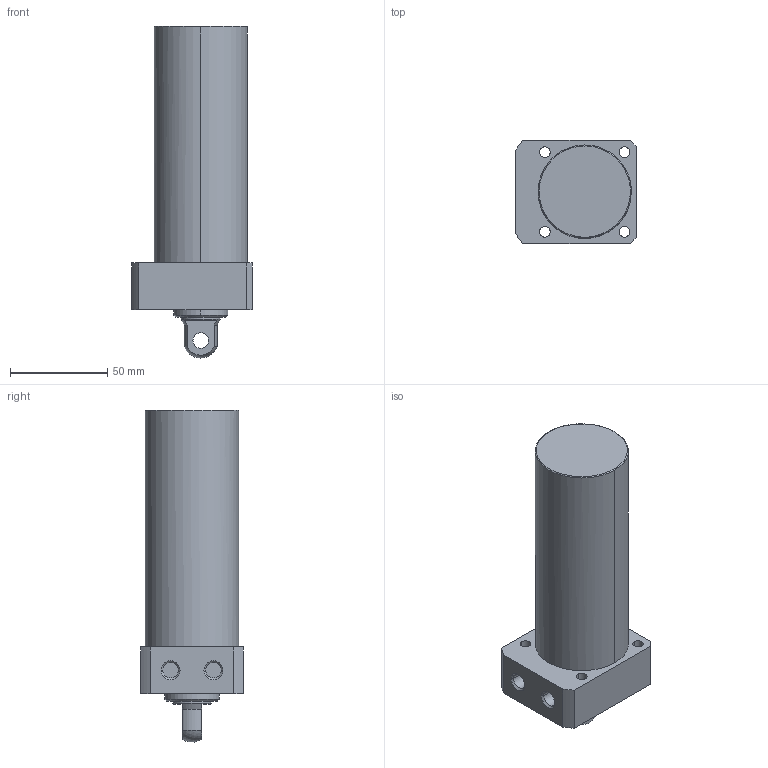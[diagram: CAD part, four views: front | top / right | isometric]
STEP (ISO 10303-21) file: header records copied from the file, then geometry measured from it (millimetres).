
FILE_DESCRIPTION((' '),'2;1');
FILE_NAME( 'TLLR-048CP-095.STEP.stp', '2025-10-24T16:34:39', (' '), ('--- Datakit www.datakit.com---'), ' Datakit CrossCadWare V2024.1 Dec 21 2023', 'Mastercam 2025', ' ');
FILE_SCHEMA(('AUTOMOTIVE_DESIGN { 1 0 10303 214 1 1 1 1 }'));
Length unit declared in the file: millimetre
Products named in the file (1): TLLR-048CP-095
Bounding box: 62 x 53 x 170.94 mm (x, y, z)
Volume: 300253.6 mm3; surface area: 33803.6 mm2
Topology: 1 solids, 1 shells, 57 faces, 164 edges, 116 vertices
Faces by surface type: cylinder 28, plane 18, cone 8, torus 2, sphere 1
Entity records: 2006 total; most frequent: DIRECTION 378, CARTESIAN_POINT 350, ORIENTED_EDGE 328, EDGE_CURVE 164, AXIS2_PLACEMENT_3D 160, VERTEX_POINT 116, CIRCLE 102, EDGE_LOOP 74
